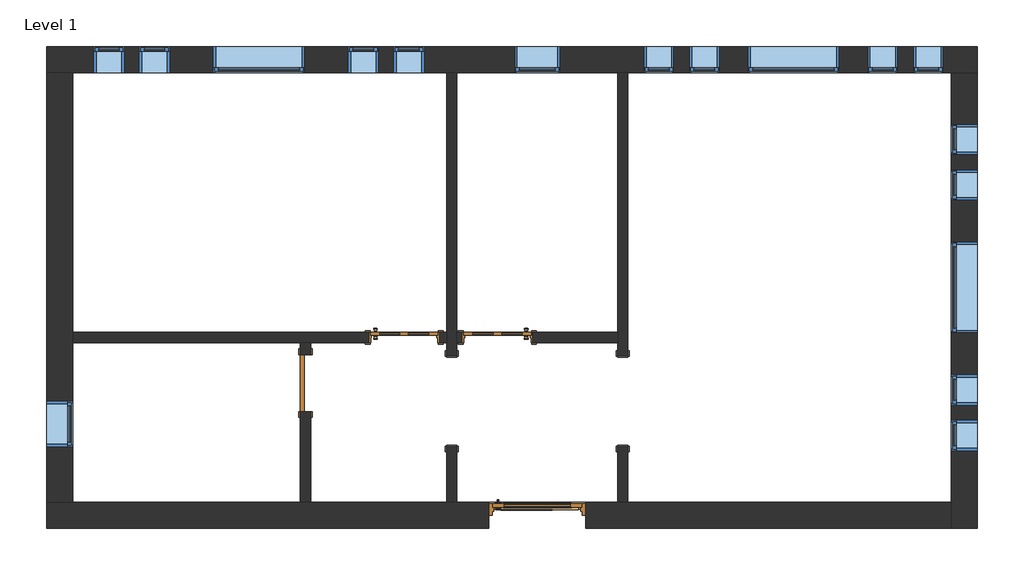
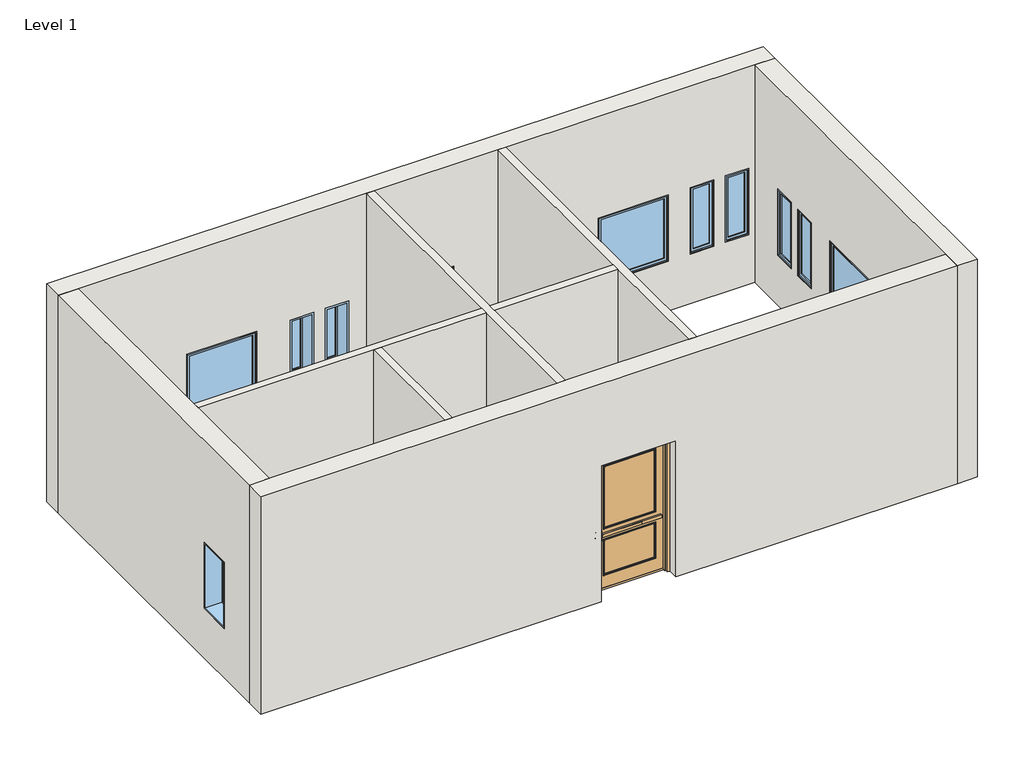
# One storey: 17 windows, 8 walls, 4 doors, 2 proxies.
"""IFC4 building model written with IfcOpenShell, lengths in millimetres."""

from ifc_helpers import new_model, si_unit, frame, origin, place, context, project, spatial, polyline, outline, extrude, faceted_brep, transform, mapped, element, save
from components import m_passage_opening_cased_1220_x_2134_mm_87a8d9c2, m_door_exterior_single_two_lite_1200_x_2400mm_30e12bfc, m_door_interior_single_4_panel_wood_900_x_2100mm_1f4ed184, m_door_interior_single_4_panel_wood_900_x_2100mm_40914eee, m_single_flush_0762_x_2134mm_0d89e411, m_fixed_0406_x_1220mm_57fee329, m_fixed_0406_x_1220mm_85c28f40, m_fixed_0610_x_1220mm_2c28ef1d, m_fixed_1220_x_1220_e08ff7af

model = new_model("IFC4")

# Units and contexts
model_context = context("Model", 3, world=origin())
ifc_project = project(units=[si_unit("LENGTHUNIT", "METRE", prefix="MILLI")], contexts=[model_context])

# Site, building, storey
site = spatial("IfcSite", under=ifc_project)
building = spatial("IfcBuilding", under=site)
storey = spatial("IfcBuildingStorey", under=building, Name="Level 1", Elevation=0.0)

# Proxies
placement = place(None, origin())
m_passage_opening_cased_1220_x_2134_mm_shape = m_passage_opening_cased_1220_x_2134_mm_87a8d9c2(model_context)
element("IfcBuildingElementProxy", 1, Name="M_Passage Opening-Cased : 1220 x 2134 mm", ObjectType="M_Passage Opening-Cased : 1220 x 2134 mm", at=placement, inside=storey, context=model_context, shape_type="MappedRepresentation", body=[
    mapped(m_passage_opening_cased_1220_x_2134_mm_shape, transform((-10841.0930086, 9462.255705, 0.0), x_axis=(0.0, 1.0, 0.0), y_axis=(-1.0, 0.0, 0.0), z_axis=(0.0, 0.0, 1.0))),
])
element("IfcBuildingElementProxy", 2, Name="M_Passage Opening-Cased : 1220 x 2134 mm", ObjectType="M_Passage Opening-Cased : 1220 x 2134 mm", at=placement, inside=storey, context=model_context, shape_type="MappedRepresentation", body=[
    mapped(m_passage_opening_cased_1220_x_2134_mm_shape, transform((-13127.0930086, 9445.8783915, 0.0), x_axis=(0.0, -1.0, 0.0), y_axis=(1.0, 0.0, 0.0), z_axis=(0.0, 0.0, 1.0))),
])

# Doors
m_door_exterior_single_two_lite_1200_x_2400mm_shape = m_door_exterior_single_two_lite_1200_x_2400mm_30e12bfc(model_context)
element("IfcDoor", 3, ObjectType="M_Door-Exterior-Single-Two_Lite : 1200 x 2400mm", at=placement, inside=storey, context=model_context, shape_type="MappedRepresentation", body=[
    mapped(m_door_exterior_single_two_lite_1200_x_2400mm_shape, transform((-11984.0930086, 7923.7170483, 0.0), x_axis=(1.0, 0.0, 0.0), y_axis=(0.0, 1.0, 0.0), z_axis=(0.0, 0.0, 1.0))),
])
m_door_interior_single_4_panel_wood_900_x_2100mm_shape = m_door_interior_single_4_panel_wood_900_x_2100mm_1f4ed184(model_context)
element("IfcDoor", 4, ObjectType="M_Door-Interior-Single-4_Panel-Wood : 900 x 2100mm", at=placement, inside=storey, context=model_context, shape_type="MappedRepresentation", body=[
    mapped(m_door_interior_single_4_panel_wood_900_x_2100mm_shape, transform((-12518.0930086, 10309.9920483, 0.0), x_axis=(-1.0, 0.0, 0.0), y_axis=(0.0, -1.0, 0.0), z_axis=(0.0, 0.0, 1.0))),
])
m_door_interior_single_4_panel_wood_900_x_2100mm_2_shape = m_door_interior_single_4_panel_wood_900_x_2100mm_40914eee(model_context)
element("IfcDoor", 5, ObjectType="M_Door-Interior-Single-4_Panel-Wood : 900 x 2100mm", at=placement, inside=storey, context=model_context, shape_type="MappedRepresentation", body=[
    mapped(m_door_interior_single_4_panel_wood_900_x_2100mm_2_shape, transform((-13766.0930086, 10309.9920483, 0.0), x_axis=(1.0, 0.0, 0.0), y_axis=(0.0, 1.0, 0.0), z_axis=(0.0, 0.0, 1.0))),
])
m_single_flush_0762_x_2134mm_shape = m_single_flush_0762_x_2134mm_0d89e411(model_context)
element("IfcDoor", 6, ObjectType="M_Single-Flush : 0762 x 2134mm", at=placement, inside=storey, context=model_context, shape_type="MappedRepresentation", body=[
    mapped(m_single_flush_0762_x_2134mm_shape, transform((-15086.0930086, 9696.8170483, 0.0), x_axis=(0.0, 1.0, 0.0), y_axis=(-1.0, 0.0, 0.0), z_axis=(0.0, 0.0, 1.0))),
])

# Walls
element("IfcWall", 7, ObjectType="Exterior - Brick on Mtl. Stud", at=placement, inside=storey, context=model_context, shape_type="Brep", body=[
    faceted_brep([(-18551.8430086, 13851.0670483, 0.0), (-18201.8430086, 13851.0670483, 0.0), (-13194.8430086, 13851.0670483, 0.0), (-13059.3430086, 13851.0670483, 0.0), (-10908.8430086, 13851.0670483, 0.0), (-10773.3430086, 13851.0670483, 0.0), (-6444.0930086, 13851.0670483, 0.0), (-6094.0930086, 13851.0670483, 0.0), (-6094.0930086, 13851.0670483, 4000.0), (-6444.0930086, 13851.0670483, 4000.0), (-10773.3430086, 13851.0670483, 4000.0), (-10908.8430086, 13851.0670483, 4000.0), (-13059.3430086, 13851.0670483, 4000.0), (-13194.8430086, 13851.0670483, 4000.0), (-18201.8430086, 13851.0670483, 4000.0), (-18551.8430086, 13851.0670483, 4000.0), (-11679.0930086, 13851.0670483, 915.0), (-12289.0930086, 13851.0670483, 915.0), (-12289.0930086, 13851.0670483, 2135.0), (-11679.0930086, 13851.0670483, 2135.0), (-15099.8430086, 13851.0670483, 915.0), (-16319.8430086, 13851.0670483, 915.0), (-16319.8430086, 13851.0670483, 2135.0), (-15099.8430086, 13851.0670483, 2135.0), (-7945.0930086, 13851.0670483, 915.0), (-9165.0930086, 13851.0670483, 915.0), (-9165.0930086, 13851.0670483, 2135.0), (-7945.0930086, 13851.0670483, 2135.0), (-17919.4430086, 13851.0670483, 915.0), (-17919.4430086, 13851.0670483, 2135.0), (-17513.4430086, 13851.0670483, 2135.0), (-17513.4430086, 13851.0670483, 915.0), (-17309.8430086, 13851.0670483, 915.0), (-17309.8430086, 13851.0670483, 2135.0), (-16903.8430086, 13851.0670483, 2135.0), (-16903.8430086, 13851.0670483, 915.0), (-14109.8430086, 13851.0670483, 915.0), (-14515.8430086, 13851.0670483, 915.0), (-14515.8430086, 13851.0670483, 2135.0), (-14109.8430086, 13851.0670483, 2135.0), (-13500.2430086, 13851.0670483, 915.0), (-13906.2430086, 13851.0670483, 915.0), (-13906.2430086, 13851.0670483, 2135.0), (-13500.2430086, 13851.0670483, 2135.0), (-10155.0930086, 13851.0670483, 915.0), (-10561.0930086, 13851.0670483, 915.0), (-10561.0930086, 13851.0670483, 2135.0), (-10155.0930086, 13851.0670483, 2135.0), (-9545.4930086, 13851.0670483, 915.0), (-9951.4930086, 13851.0670483, 915.0), (-9951.4930086, 13851.0670483, 2135.0), (-9545.4930086, 13851.0670483, 2135.0), (-6955.0930086, 13851.0670483, 915.0), (-6955.0930086, 13851.0670483, 2135.0), (-6549.0930086, 13851.0670483, 2135.0), (-6549.0930086, 13851.0670483, 915.0), (-7564.6930086, 13851.0670483, 915.0), (-7564.6930086, 13851.0670483, 2135.0), (-7158.6930086, 13851.0670483, 2135.0), (-7158.6930086, 13851.0670483, 915.0), (-18551.8430086, 14201.0670483, 0.0), (-18551.8430086, 14201.0670483, 4000.0), (-6094.0930086, 14201.0670483, 4000.0), (-6094.0930086, 14201.0670483, 0.0), (-11679.0930086, 14201.0670483, 915.0), (-11679.0930086, 14201.0670483, 2135.0), (-12289.0930086, 14201.0670483, 2135.0), (-12289.0930086, 14201.0670483, 915.0), (-15099.8430086, 14201.0670483, 915.0), (-15099.8430086, 14201.0670483, 2135.0), (-16319.8430086, 14201.0670483, 2135.0), (-16319.8430086, 14201.0670483, 915.0), (-7945.0930086, 14201.0670483, 915.0), (-7945.0930086, 14201.0670483, 2135.0), (-9165.0930086, 14201.0670483, 2135.0), (-9165.0930086, 14201.0670483, 915.0), (-17919.4430086, 14201.0670483, 915.0), (-17513.4430086, 14201.0670483, 915.0), (-17513.4430086, 14201.0670483, 2135.0), (-17919.4430086, 14201.0670483, 2135.0), (-17309.8430086, 14201.0670483, 915.0), (-16903.8430086, 14201.0670483, 915.0), (-16903.8430086, 14201.0670483, 2135.0), (-17309.8430086, 14201.0670483, 2135.0), (-14109.8430086, 14201.0670483, 915.0), (-14109.8430086, 14201.0670483, 2135.0), (-14515.8430086, 14201.0670483, 2135.0), (-14515.8430086, 14201.0670483, 915.0), (-13500.2430086, 14201.0670483, 915.0), (-13500.2430086, 14201.0670483, 2135.0), (-13906.2430086, 14201.0670483, 2135.0), (-13906.2430086, 14201.0670483, 915.0), (-10155.0930086, 14201.0670483, 915.0), (-10155.0930086, 14201.0670483, 2135.0), (-10561.0930086, 14201.0670483, 2135.0), (-10561.0930086, 14201.0670483, 915.0), (-9545.4930086, 14201.0670483, 915.0), (-9545.4930086, 14201.0670483, 2135.0), (-9951.4930086, 14201.0670483, 2135.0), (-9951.4930086, 14201.0670483, 915.0), (-6955.0930086, 14201.0670483, 915.0), (-6549.0930086, 14201.0670483, 915.0), (-6549.0930086, 14201.0670483, 2135.0), (-6955.0930086, 14201.0670483, 2135.0), (-7564.6930086, 14201.0670483, 915.0), (-7158.6930086, 14201.0670483, 915.0), (-7158.6930086, 14201.0670483, 2135.0), (-7564.6930086, 14201.0670483, 2135.0)], [[[0, 1, 2, 3, 4, 5, 6, 7, 8, 9, 10, 11, 12, 13, 14, 15], [16, 17, 18, 19], [20, 21, 22, 23], [24, 25, 26, 27], [28, 29, 30, 31], [32, 33, 34, 35], [36, 37, 38, 39], [40, 41, 42, 43], [44, 45, 46, 47], [48, 49, 50, 51], [52, 53, 54, 55], [56, 57, 58, 59]], [[60, 61, 62, 63], [64, 65, 66, 67], [68, 69, 70, 71], [72, 73, 74, 75], [76, 77, 78, 79], [80, 81, 82, 83], [84, 85, 86, 87], [88, 89, 90, 91], [92, 93, 94, 95], [96, 97, 98, 99], [100, 101, 102, 103], [104, 105, 106, 107]], [[7, 6, 5, 4, 3, 2, 1, 0, 60, 63]], [[15, 14, 13, 12, 11, 10, 9, 8, 62, 61]], [[8, 7, 63, 62]], [[0, 15, 61, 60]], [[65, 64, 16, 19]], [[66, 65, 19, 18]], [[67, 66, 18, 17]], [[64, 67, 17, 16]], [[69, 68, 20, 23]], [[70, 69, 23, 22]], [[71, 70, 22, 21]], [[68, 71, 21, 20]], [[73, 72, 24, 27]], [[74, 73, 27, 26]], [[75, 74, 26, 25]], [[72, 75, 25, 24]], [[29, 28, 76, 79]], [[30, 29, 79, 78]], [[31, 30, 78, 77]], [[28, 31, 77, 76]], [[33, 32, 80, 83]], [[34, 33, 83, 82]], [[35, 34, 82, 81]], [[32, 35, 81, 80]], [[85, 84, 36, 39]], [[86, 85, 39, 38]], [[87, 86, 38, 37]], [[84, 87, 37, 36]], [[89, 88, 40, 43]], [[90, 89, 43, 42]], [[91, 90, 42, 41]], [[88, 91, 41, 40]], [[93, 92, 44, 47]], [[94, 93, 47, 46]], [[95, 94, 46, 45]], [[92, 95, 45, 44]], [[97, 96, 48, 51]], [[98, 97, 51, 50]], [[99, 98, 50, 49]], [[96, 99, 49, 48]], [[53, 52, 100, 103]], [[54, 53, 103, 102]], [[55, 54, 102, 101]], [[52, 55, 101, 100]], [[57, 56, 104, 107]], [[58, 57, 107, 106]], [[59, 58, 106, 105]], [[56, 59, 105, 104]]]),
])
element("IfcWall", 8, ObjectType="Exterior - Brick on Mtl. Stud", at=placement, inside=storey, context=model_context, shape_type="Brep", body=[
    faceted_brep([(-6444.0930086, 13851.0670483, 0.0), (-6444.0930086, 8105.0670483, 0.0), (-6444.0930086, 7755.0670483, 0.0), (-6444.0930086, 7755.0670483, 4000.0), (-6444.0930086, 8105.0670483, 4000.0), (-6444.0930086, 13851.0670483, 4000.0), (-6444.0930086, 10368.0670483, 915.0), (-6444.0930086, 11588.0670483, 915.0), (-6444.0930086, 11588.0670483, 2135.0), (-6444.0930086, 10368.0670483, 2135.0), (-6444.0930086, 12756.2670483, 915.0), (-6444.0930086, 13162.2670483, 915.0), (-6444.0930086, 13162.2670483, 2135.0), (-6444.0930086, 12756.2670483, 2135.0), (-6444.0930086, 12146.6670483, 915.0), (-6444.0930086, 12552.6670483, 915.0), (-6444.0930086, 12552.6670483, 2135.0), (-6444.0930086, 12146.6670483, 2135.0), (-6444.0930086, 9199.8670483, 915.0), (-6444.0930086, 9199.8670483, 2135.0), (-6444.0930086, 8793.8670483, 2135.0), (-6444.0930086, 8793.8670483, 915.0), (-6444.0930086, 9809.4670483, 915.0), (-6444.0930086, 9809.4670483, 2135.0), (-6444.0930086, 9403.4670483, 2135.0), (-6444.0930086, 9403.4670483, 915.0), (-6094.0930086, 13851.0670483, 0.0), (-6094.0930086, 13851.0670483, 4000.0), (-6094.0930086, 7755.0670483, 4000.0), (-6094.0930086, 7755.0670483, 0.0), (-6094.0930086, 10368.0670483, 915.0), (-6094.0930086, 10368.0670483, 2135.0), (-6094.0930086, 11588.0670483, 2135.0), (-6094.0930086, 11588.0670483, 915.0), (-6094.0930086, 12756.2670483, 915.0), (-6094.0930086, 12756.2670483, 2135.0), (-6094.0930086, 13162.2670483, 2135.0), (-6094.0930086, 13162.2670483, 915.0), (-6094.0930086, 12146.6670483, 915.0), (-6094.0930086, 12146.6670483, 2135.0), (-6094.0930086, 12552.6670483, 2135.0), (-6094.0930086, 12552.6670483, 915.0), (-6094.0930086, 9199.8670483, 915.0), (-6094.0930086, 8793.8670483, 915.0), (-6094.0930086, 8793.8670483, 2135.0), (-6094.0930086, 9199.8670483, 2135.0), (-6094.0930086, 9809.4670483, 915.0), (-6094.0930086, 9403.4670483, 915.0), (-6094.0930086, 9403.4670483, 2135.0), (-6094.0930086, 9809.4670483, 2135.0)], [[[0, 1, 2, 3, 4, 5], [6, 7, 8, 9], [10, 11, 12, 13], [14, 15, 16, 17], [18, 19, 20, 21], [22, 23, 24, 25]], [[26, 27, 28, 29], [30, 31, 32, 33], [34, 35, 36, 37], [38, 39, 40, 41], [42, 43, 44, 45], [46, 47, 48, 49]], [[2, 1, 0, 26, 29]], [[5, 4, 3, 28, 27]], [[0, 5, 27, 26]], [[3, 2, 29, 28]], [[31, 30, 6, 9]], [[32, 31, 9, 8]], [[33, 32, 8, 7]], [[30, 33, 7, 6]], [[35, 34, 10, 13]], [[36, 35, 13, 12]], [[37, 36, 12, 11]], [[34, 37, 11, 10]], [[39, 38, 14, 17]], [[40, 39, 17, 16]], [[41, 40, 16, 15]], [[38, 41, 15, 14]], [[19, 18, 42, 45]], [[20, 19, 45, 44]], [[21, 20, 44, 43]], [[18, 21, 43, 42]], [[23, 22, 46, 49]], [[24, 23, 49, 48]], [[25, 24, 48, 47]], [[22, 25, 47, 46]]]),
])
element("IfcWall", 9, ObjectType="Exterior - Brick on Mtl. Stud", at=placement, inside=storey, context=model_context, shape_type="Brep", body=[
    faceted_brep([(-18551.8430086, 8105.0670483, 4000.0), (-18201.8430086, 8105.0670483, 4000.0), (-15153.8430086, 8105.0670483, 4000.0), (-15018.3430086, 8105.0670483, 4000.0), (-13194.8430086, 8105.0670483, 4000.0), (-13059.3430086, 8105.0670483, 4000.0), (-10908.8430086, 8105.0670483, 4000.0), (-10773.3430086, 8105.0670483, 4000.0), (-6444.0930086, 8105.0670483, 4000.0), (-6444.0930086, 8105.0670483, 0.0), (-10773.3430086, 8105.0670483, 0.0), (-10908.8430086, 8105.0670483, 0.0), (-11334.0930086, 8105.0670483, 0.0), (-11334.0930086, 8105.0670483, 2500.0), (-12634.0930086, 8105.0670483, 2500.0), (-12634.0930086, 8105.0670483, 0.0), (-13059.3430086, 8105.0670483, 0.0), (-13194.8430086, 8105.0670483, 0.0), (-15018.3430086, 8105.0670483, 0.0), (-15153.8430086, 8105.0670483, 0.0), (-18201.8430086, 8105.0670483, 0.0), (-18551.8430086, 8105.0670483, 0.0), (-6444.0930086, 7755.0670483, 4000.0), (-18551.8430086, 7755.0670483, 4000.0), (-18551.8430086, 7755.0670483, 0.0), (-12634.0930086, 7755.0670483, 0.0), (-12634.0930086, 7755.0670483, 2500.0), (-11334.0930086, 7755.0670483, 2500.0), (-11334.0930086, 7755.0670483, 0.0), (-6444.0930086, 7755.0670483, 0.0)], [[[0, 1, 2, 3, 4, 5, 6, 7, 8, 9, 10, 11, 12, 13, 14, 15, 16, 17, 18, 19, 20, 21]], [[22, 23, 24, 25, 26, 27, 28, 29]], [[9, 29, 28, 12, 11, 10]], [[24, 21, 20, 19, 18, 17, 16, 15, 25]], [[8, 7, 6, 5, 4, 3, 2, 1, 0, 23, 22]], [[9, 8, 22, 29]], [[0, 21, 24, 23]], [[27, 13, 12, 28]], [[13, 27, 26, 14]], [[14, 26, 25, 15]]]),
])
element("IfcWall", 10, ObjectType="Exterior - Brick on Mtl. Stud", at=placement, inside=storey, context=model_context, shape_type="Brep", body=[
    faceted_brep([(-18201.8430086, 8105.0670483, 0.0), (-18201.8430086, 10239.0670483, 0.0), (-18201.8430086, 10374.5670483, 0.0), (-18201.8430086, 13851.0670483, 0.0), (-18201.8430086, 13851.0670483, 4000.0), (-18201.8430086, 10374.5670483, 4000.0), (-18201.8430086, 10239.0670483, 4000.0), (-18201.8430086, 8105.0670483, 4000.0), (-18201.8430086, 9455.0670483, 915.0), (-18201.8430086, 8845.0670483, 915.0), (-18201.8430086, 8845.0670483, 2135.0), (-18201.8430086, 9455.0670483, 2135.0), (-18551.8430086, 8105.0670483, 0.0), (-18551.8430086, 8105.0670483, 4000.0), (-18551.8430086, 13851.0670483, 4000.0), (-18551.8430086, 13851.0670483, 0.0), (-18551.8430086, 9455.0670483, 915.0), (-18551.8430086, 9455.0670483, 2135.0), (-18551.8430086, 8845.0670483, 2135.0), (-18551.8430086, 8845.0670483, 915.0)], [[[0, 1, 2, 3, 4, 5, 6, 7], [8, 9, 10, 11]], [[12, 13, 14, 15], [16, 17, 18, 19]], [[3, 2, 1, 0, 12, 15]], [[7, 6, 5, 4, 14, 13]], [[0, 7, 13, 12]], [[4, 3, 15, 14]], [[17, 16, 8, 11]], [[18, 17, 11, 10]], [[19, 18, 10, 9]], [[16, 19, 9, 8]]]),
])
element("IfcWall", 11, ObjectType="Interior - 135mm Partition (2-hr)", at=placement, inside=storey, context=model_context, shape_type="Brep", body=[
    faceted_brep([(-10908.8430086, 13851.0670483, 0.0), (-10908.8430086, 10374.5670483, 0.0), (-10908.8430086, 10239.0670483, 0.0), (-10908.8430086, 10064.0670483, 0.0), (-10908.8430086, 10064.0670483, 2134.0), (-10908.8430086, 8844.0670483, 2134.0), (-10908.8430086, 8844.0670483, 0.0), (-10908.8430086, 8105.0670483, 0.0), (-10908.8430086, 8105.0670483, 4000.0), (-10908.8430086, 10239.0670483, 4000.0), (-10908.8430086, 10374.5670483, 4000.0), (-10908.8430086, 13851.0670483, 4000.0), (-10773.3430086, 10064.0670483, 2134.0), (-10773.3430086, 10064.0670483, 0.0), (-10773.3430086, 13851.0670483, 0.0), (-10773.3430086, 13851.0670483, 4000.0), (-10773.3430086, 8105.0670483, 4000.0), (-10773.3430086, 8105.0670483, 0.0), (-10773.3430086, 8844.0670483, 0.0), (-10773.3430086, 8844.0670483, 2134.0)], [[[0, 1, 2, 3, 4, 5, 6, 7, 8, 9, 10, 11]], [[12, 13, 14, 15, 16, 17, 18, 19]], [[18, 17, 7, 6]], [[14, 13, 3, 2, 1, 0]], [[11, 10, 9, 8, 16, 15]], [[0, 11, 15, 14]], [[8, 7, 17, 16]], [[6, 5, 19, 18]], [[4, 3, 13, 12]], [[5, 4, 12, 19]]]),
])
element("IfcWall", 12, ObjectType="Interior - 135mm Partition (2-hr)", at=placement, inside=storey, context=model_context, shape_type="Brep", body=[
    faceted_brep([(-13194.8430086, 8105.0670483, 4000.0), (-13194.8430086, 10239.0670483, 4000.0), (-13194.8430086, 10374.5670483, 4000.0), (-13194.8430086, 13851.0670483, 4000.0), (-13194.8430086, 13851.0670483, 0.0), (-13194.8430086, 10374.5670483, 0.0), (-13194.8430086, 10239.0670483, 0.0), (-13194.8430086, 10064.0670483, 0.0), (-13194.8430086, 10064.0670483, 2134.0), (-13194.8430086, 8844.0670483, 2134.0), (-13194.8430086, 8844.0670483, 0.0), (-13194.8430086, 8105.0670483, 0.0), (-13059.3430086, 13851.0670483, 4000.0), (-13059.3430086, 10374.5670483, 4000.0), (-13059.3430086, 10239.0670483, 4000.0), (-13059.3430086, 8105.0670483, 4000.0), (-13059.3430086, 8105.0670483, 0.0), (-13059.3430086, 8844.0670483, 0.0), (-13059.3430086, 8844.0670483, 2134.0), (-13059.3430086, 10064.0670483, 2134.0), (-13059.3430086, 10064.0670483, 0.0), (-13059.3430086, 10239.0670483, 0.0), (-13059.3430086, 10374.5670483, 0.0), (-13059.3430086, 13851.0670483, 0.0)], [[[0, 1, 2, 3, 4, 5, 6, 7, 8, 9, 10, 11]], [[12, 13, 14, 15, 16, 17, 18, 19, 20, 21, 22, 23]], [[4, 23, 22, 21, 20, 7, 6, 5]], [[16, 11, 10, 17]], [[3, 2, 1, 0, 15, 14, 13, 12]], [[4, 3, 12, 23]], [[0, 11, 16, 15]], [[19, 8, 7, 20]], [[9, 18, 17, 10]], [[8, 19, 18, 9]]]),
])
element("IfcWall", 13, ObjectType="Interior - 135mm Partition (2-hr)", at=placement, inside=storey, context=model_context, shape_type="Brep", body=[
    faceted_brep([(-18201.8430086, 10239.0670483, 4000.0), (-18201.8430086, 10239.0670483, 0.0), (-15153.8430086, 10239.0670483, 0.0), (-15018.3430086, 10239.0670483, 0.0), (-14241.0930086, 10239.0670483, 0.0), (-14241.0930086, 10239.0670483, 2125.0), (-13291.0930086, 10239.0670483, 2125.0), (-13291.0930086, 10239.0670483, 0.0), (-13194.8430086, 10239.0670483, 0.0), (-13194.8430086, 10239.0670483, 4000.0), (-15018.3430086, 10239.0670483, 4000.0), (-15153.8430086, 10239.0670483, 4000.0), (-18201.8430086, 10374.5670483, 0.0), (-18201.8430086, 10374.5670483, 4000.0), (-13194.8430086, 10374.5670483, 4000.0), (-13194.8430086, 10374.5670483, 0.0), (-13291.0930086, 10374.5670483, 0.0), (-13291.0930086, 10374.5670483, 2125.0), (-14241.0930086, 10374.5670483, 2125.0), (-14241.0930086, 10374.5670483, 0.0)], [[[0, 1, 2, 3, 4, 5, 6, 7, 8, 9, 10, 11]], [[12, 13, 14, 15, 16, 17, 18, 19]], [[1, 12, 19, 4, 3, 2]], [[7, 16, 15, 8]], [[13, 0, 11, 10, 9, 14]], [[1, 0, 13, 12]], [[9, 8, 15, 14]], [[6, 17, 16, 7]], [[17, 6, 5, 18]], [[18, 5, 4, 19]]]),
    faceted_brep([(-10908.8430086, 10239.0670483, 0.0), (-10908.8430086, 10239.0670483, 4000.0), (-13059.3430086, 10239.0670483, 4000.0), (-13059.3430086, 10239.0670483, 0.0), (-12993.0930086, 10239.0670483, 0.0), (-12993.0930086, 10239.0670483, 2125.0), (-12043.0930086, 10239.0670483, 2125.0), (-12043.0930086, 10239.0670483, 0.0), (-10908.8430086, 10374.5670483, 4000.0), (-10908.8430086, 10374.5670483, 0.0), (-12043.0930086, 10374.5670483, 0.0), (-12043.0930086, 10374.5670483, 2125.0), (-12993.0930086, 10374.5670483, 2125.0), (-12993.0930086, 10374.5670483, 0.0), (-13059.3430086, 10374.5670483, 0.0), (-13059.3430086, 10374.5670483, 4000.0)], [[[0, 1, 2, 3, 4, 5, 6, 7]], [[8, 9, 10, 11, 12, 13, 14, 15]], [[9, 0, 7, 10]], [[13, 4, 3, 14]], [[1, 8, 15, 2]], [[1, 0, 9, 8]], [[3, 2, 15, 14]], [[5, 4, 13, 12]], [[6, 5, 12, 11]], [[7, 6, 11, 10]]]),
])
element("IfcWall", 14, ObjectType="Interior - 135mm Partition (2-hr)", at=placement, inside=storey, context=model_context, shape_type="SweptSolid", body=[
    extrude(outline(polyline([(10239.0670483, 0.0), (10077.8170483, 0.0), (10077.8170483, 2134.0), (9315.8170483, 2134.0), (9315.8170483, 0.0), (8105.0670483, 0.0), (8105.0670483, 4000.0), (10239.0670483, 4000.0), (10239.0670483, 0.0)])), frame((-15153.8430086, 0.0, 0.0), z_axis=(1.0, 0.0, 0.0), x_axis=(0.0, 1.0, 0.0)), (0.0, 0.0, 1.0), 135.5),
])

# Windows
m_fixed_0406_x_1220mm_shape = m_fixed_0406_x_1220mm_57fee329(model_context)
element("IfcWindow", 15, ObjectType="M_Fixed : 0406 x 1220mm", at=placement, inside=storey, context=model_context, shape_type="MappedRepresentation", body=[
    mapped(m_fixed_0406_x_1220mm_shape, transform((-17716.4430086, 14013.0670483, 0.0), x_axis=(1.0, 0.0, 0.0), y_axis=(0.0, 1.0, 0.0), z_axis=(0.0, 0.0, 1.0))),
])
element("IfcWindow", 16, ObjectType="M_Fixed : 0406 x 1220mm", at=placement, inside=storey, context=model_context, shape_type="MappedRepresentation", body=[
    mapped(m_fixed_0406_x_1220mm_shape, transform((-17106.8430086, 14013.0670483, 0.0), x_axis=(1.0, 0.0, 0.0), y_axis=(0.0, 1.0, 0.0), z_axis=(0.0, 0.0, 1.0))),
])
element("IfcWindow", 17, ObjectType="M_Fixed : 0406 x 1220mm", at=placement, inside=storey, context=model_context, shape_type="MappedRepresentation", body=[
    mapped(m_fixed_0406_x_1220mm_shape, transform((-9748.4930086, 14039.0670483, 0.0), x_axis=(-1.0, 0.0, 0.0), y_axis=(0.0, -1.0, 0.0), z_axis=(0.0, 0.0, 1.0))),
])
element("IfcWindow", 18, ObjectType="M_Fixed : 0406 x 1220mm", at=placement, inside=storey, context=model_context, shape_type="MappedRepresentation", body=[
    mapped(m_fixed_0406_x_1220mm_shape, transform((-10358.0930086, 14039.0670483, 0.0), x_axis=(-1.0, 0.0, 0.0), y_axis=(0.0, -1.0, 0.0), z_axis=(0.0, 0.0, 1.0))),
])
element("IfcWindow", 19, ObjectType="M_Fixed : 0406 x 1220mm", at=placement, inside=storey, context=model_context, shape_type="MappedRepresentation", body=[
    mapped(m_fixed_0406_x_1220mm_shape, transform((-6256.0930086, 12349.6670483, 0.0), x_axis=(0.0, 1.0, 0.0), y_axis=(-1.0, 0.0, 0.0), z_axis=(0.0, 0.0, 1.0))),
])
element("IfcWindow", 20, ObjectType="M_Fixed : 0406 x 1220mm", at=placement, inside=storey, context=model_context, shape_type="MappedRepresentation", body=[
    mapped(m_fixed_0406_x_1220mm_shape, transform((-6256.0930086, 12959.2670483, 0.0), x_axis=(0.0, 1.0, 0.0), y_axis=(-1.0, 0.0, 0.0), z_axis=(0.0, 0.0, 1.0))),
])
m_fixed_0406_x_1220mm_2_shape = m_fixed_0406_x_1220mm_85c28f40(model_context)
element("IfcWindow", 21, ObjectType="M_Fixed : 0406 x 1220mm", at=placement, inside=storey, context=model_context, shape_type="MappedRepresentation", body=[
    mapped(m_fixed_0406_x_1220mm_2_shape, transform((-13703.2430086, 14013.0670483, 0.0), x_axis=(-1.0, 0.0, 0.0), y_axis=(0.0, -1.0, 0.0), z_axis=(0.0, 0.0, 1.0))),
])
element("IfcWindow", 22, ObjectType="M_Fixed : 0406 x 1220mm", at=placement, inside=storey, context=model_context, shape_type="MappedRepresentation", body=[
    mapped(m_fixed_0406_x_1220mm_2_shape, transform((-14312.8430086, 14013.0670483, 0.0), x_axis=(-1.0, 0.0, 0.0), y_axis=(0.0, -1.0, 0.0), z_axis=(0.0, 0.0, 1.0))),
])
element("IfcWindow", 23, ObjectType="M_Fixed : 0406 x 1220mm", at=placement, inside=storey, context=model_context, shape_type="MappedRepresentation", body=[
    mapped(m_fixed_0406_x_1220mm_2_shape, transform((-7361.6930086, 14039.0670483, 0.0), x_axis=(1.0, 0.0, 0.0), y_axis=(0.0, 1.0, 0.0), z_axis=(0.0, 0.0, 1.0))),
])
element("IfcWindow", 24, ObjectType="M_Fixed : 0406 x 1220mm", at=placement, inside=storey, context=model_context, shape_type="MappedRepresentation", body=[
    mapped(m_fixed_0406_x_1220mm_2_shape, transform((-6752.0930086, 14039.0670483, 0.0), x_axis=(1.0, 0.0, 0.0), y_axis=(0.0, 1.0, 0.0), z_axis=(0.0, 0.0, 1.0))),
])
element("IfcWindow", 25, ObjectType="M_Fixed : 0406 x 1220mm", at=placement, inside=storey, context=model_context, shape_type="MappedRepresentation", body=[
    mapped(m_fixed_0406_x_1220mm_2_shape, transform((-6256.0930086, 9606.4670483, 0.0), x_axis=(0.0, -1.0, 0.0), y_axis=(1.0, 0.0, 0.0), z_axis=(0.0, 0.0, 1.0))),
])
element("IfcWindow", 26, ObjectType="M_Fixed : 0406 x 1220mm", at=placement, inside=storey, context=model_context, shape_type="MappedRepresentation", body=[
    mapped(m_fixed_0406_x_1220mm_2_shape, transform((-6256.0930086, 8996.8670483, 0.0), x_axis=(0.0, -1.0, 0.0), y_axis=(1.0, 0.0, 0.0), z_axis=(0.0, 0.0, 1.0))),
])
m_fixed_0610_x_1220mm_shape = m_fixed_0610_x_1220mm_2c28ef1d(model_context)
element("IfcWindow", 27, ObjectType="M_Fixed : 0610 x 1220mm", at=placement, inside=storey, context=model_context, shape_type="MappedRepresentation", body=[
    mapped(m_fixed_0610_x_1220mm_shape, transform((-11984.0930086, 14039.0670483, 0.0), x_axis=(-1.0, 0.0, 0.0), y_axis=(0.0, -1.0, 0.0), z_axis=(0.0, 0.0, 1.0))),
])
element("IfcWindow", 28, ObjectType="M_Fixed : 0610 x 1220mm", at=placement, inside=storey, context=model_context, shape_type="MappedRepresentation", body=[
    mapped(m_fixed_0610_x_1220mm_shape, transform((-18389.8430086, 9150.0670483, 0.0), x_axis=(0.0, -1.0, 0.0), y_axis=(1.0, 0.0, 0.0), z_axis=(0.0, 0.0, 1.0))),
])
m_fixed_1220_x_1220_shape = m_fixed_1220_x_1220_e08ff7af(model_context)
element("IfcWindow", 29, ObjectType="M_Fixed : 1220 x 1220", at=placement, inside=storey, context=model_context, shape_type="MappedRepresentation", body=[
    mapped(m_fixed_1220_x_1220_shape, transform((-15709.8430086, 14039.0670483, 0.0), x_axis=(-1.0, 0.0, 0.0), y_axis=(0.0, -1.0, 0.0), z_axis=(0.0, 0.0, 1.0))),
])
element("IfcWindow", 30, ObjectType="M_Fixed : 1220 x 1220", at=placement, inside=storey, context=model_context, shape_type="MappedRepresentation", body=[
    mapped(m_fixed_1220_x_1220_shape, transform((-8555.0930086, 14039.0670483, 0.0), x_axis=(-1.0, 0.0, 0.0), y_axis=(0.0, -1.0, 0.0), z_axis=(0.0, 0.0, 1.0))),
])
element("IfcWindow", 31, ObjectType="M_Fixed : 1220 x 1220", at=placement, inside=storey, context=model_context, shape_type="MappedRepresentation", body=[
    mapped(m_fixed_1220_x_1220_shape, transform((-6256.0930086, 10978.0670483, 0.0), x_axis=(0.0, 1.0, 0.0), y_axis=(-1.0, 0.0, 0.0), z_axis=(0.0, 0.0, 1.0))),
])

save(model, "model.ifc")
